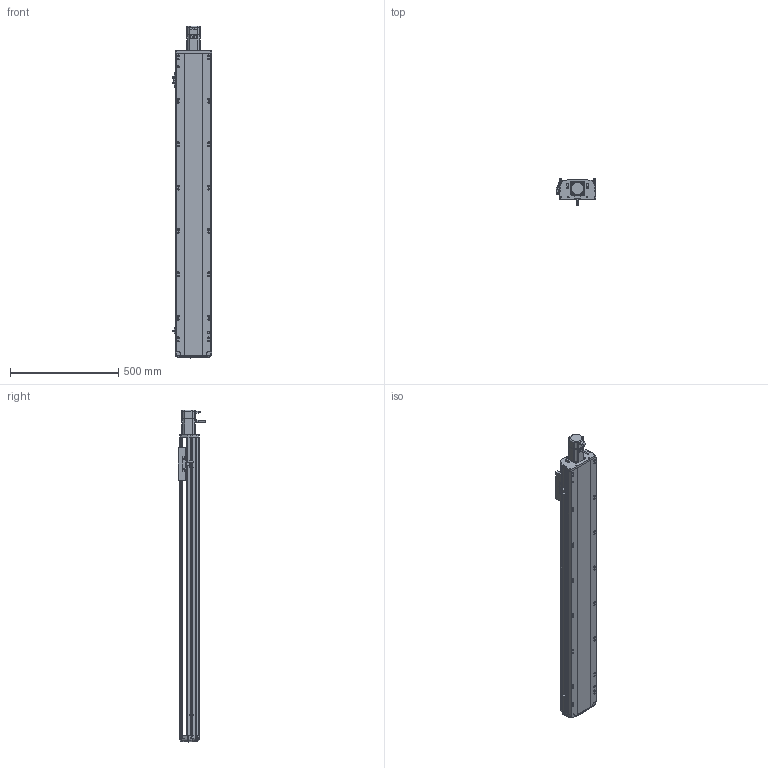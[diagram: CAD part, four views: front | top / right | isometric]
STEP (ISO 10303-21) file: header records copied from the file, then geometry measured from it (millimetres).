
FILE_DESCRIPTION (( 'STEP AP214' ), '1' );
FILE_NAME ('RTH17-XX-1150-E-M40-C4.STEP', '2025-10-24T05:45:57', ( '' ), ( '' ), 'SwSTEP 2.0', 'SolidWorks 2018', '' );
FILE_SCHEMA (( 'AUTOMOTIVE_DESIGN' ));
Length unit declared in the file: millimetre
Products named in the file (9): RTH17-XX-1150-E-M40-C4; N_RTH17-E-011底座^RTH17-XX-XX-E-M40-C4（方程式）; N_OMRON EE-SX672 換覜ん^RTH17-XX-XX-E-M40-C4ㄗ源最宒ㄘ; N_RTH-BL-012 感应片(外置)^RTH17-XX-XX-E-M40-C4（方程式）; N_RTH17-E-008-P40电机板^RTH17-XX-XX-E-M40-C4（方程式）; N_RTH17-GY-001P^RTH17-XX-XX-E-M40-C4（方程式）; N_RTH17-E-007上盖^RTH17-XX-XX-E-M40-C4（方程式）; N_RTH17-E-004丝杆螺母连接座^RTH17-XX-XX-E-M40-C4（方程式）; N_M40^RTH17-XX-XX-E-M40-C4（方程式）
Assembly tree (10 placements, depth 2):
  RTH17-XX-1150-E-M40-C4
    N_RTH17-E-011底座^RTH17-XX-XX-E-M40-C4（方程式）
    N_RTH17-E-007上盖^RTH17-XX-XX-E-M40-C4（方程式）
    N_RTH17-E-008-P40电机板^RTH17-XX-XX-E-M40-C4（方程式）
    N_OMRON EE-SX672 換覜ん^RTH17-XX-XX-E-M40-C4ㄗ源最宒ㄘ  x3
    N_RTH-BL-012 感应片(外置)^RTH17-XX-XX-E-M40-C4（方程式）
    N_RTH17-E-004丝杆螺母连接座^RTH17-XX-XX-E-M40-C4（方程式）
    N_RTH17-GY-001P^RTH17-XX-XX-E-M40-C4（方程式）
    N_M40^RTH17-XX-XX-E-M40-C4（方程式）
Bounding box: 183.5 x 127 x 1530.69 mm (x, y, z)
Volume: 10881955.7 mm3; surface area: 1438018.7 mm2
Topology: 9 solids, 11 shells, 1713 faces, 4819 edges, 3146 vertices
Faces by surface type: plane 833, cylinder 513, bspline 330, cone 28, torus 9
Entity records: 51101 total; most frequent: CARTESIAN_POINT 20286, ORIENTED_EDGE 6662, DIRECTION 5535, EDGE_CURVE 3335, VERTEX_POINT 2182, AXIS2_PLACEMENT_3D 1852, VECTOR 1831, LINE 1831
